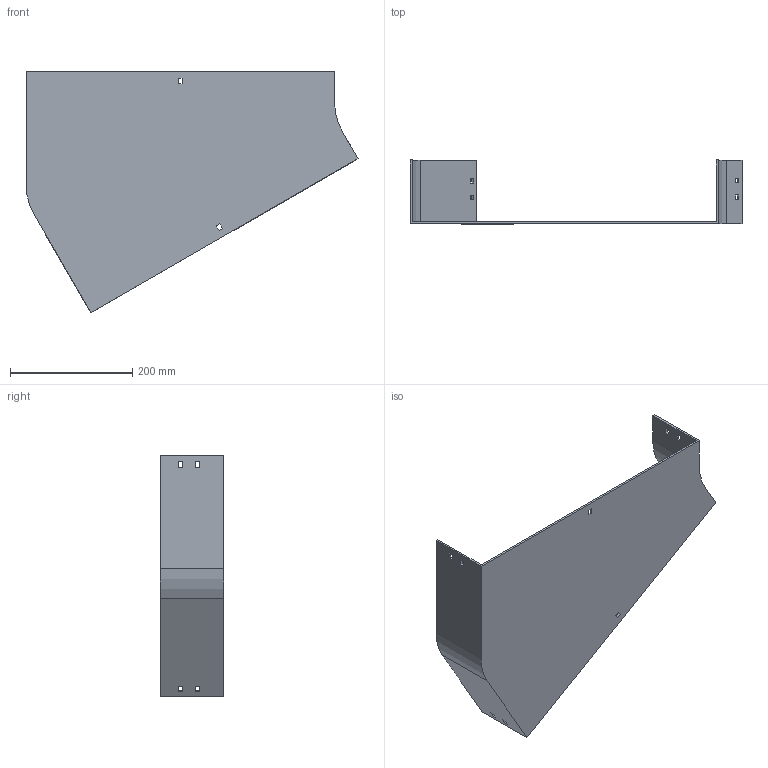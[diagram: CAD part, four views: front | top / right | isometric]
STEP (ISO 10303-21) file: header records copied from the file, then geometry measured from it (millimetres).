
FILE_DESCRIPTION (( 'STEP AP214' ), '1' );
FILE_NAME ('12B1D500.step', '2025-02-21T09:33:41', ( '' ), ( '' ), 'SwSTEP 2.0', 'SolidWorks 2023', '' );
FILE_SCHEMA (( 'AUTOMOTIVE_DESIGN' ));
Length unit declared in the file: millimetre
Products named in the file (1): 12B1D500
Bounding box: 542.4 x 104 x 395.3 mm (x, y, z)
Volume: 708975.1 mm3; surface area: 413244.5 mm2
Topology: 1 solids, 1 shells, 58 faces, 168 edges, 112 vertices
Faces by surface type: plane 54, cylinder 4
Entity records: 1943 total; most frequent: CARTESIAN_POINT 339, ORIENTED_EDGE 336, DIRECTION 294, EDGE_CURVE 168, LINE 160, VECTOR 160, VERTEX_POINT 112, EDGE_LOOP 78
